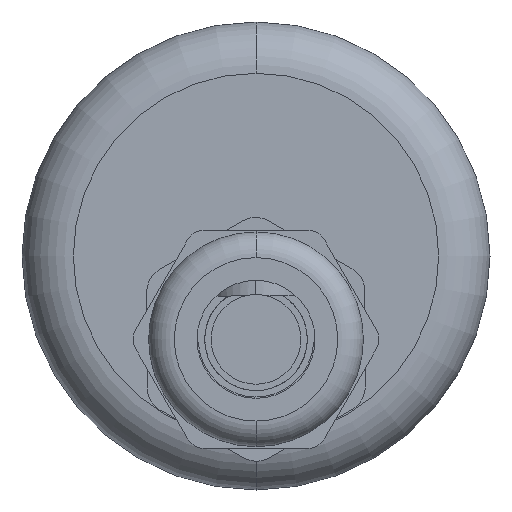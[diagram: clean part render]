
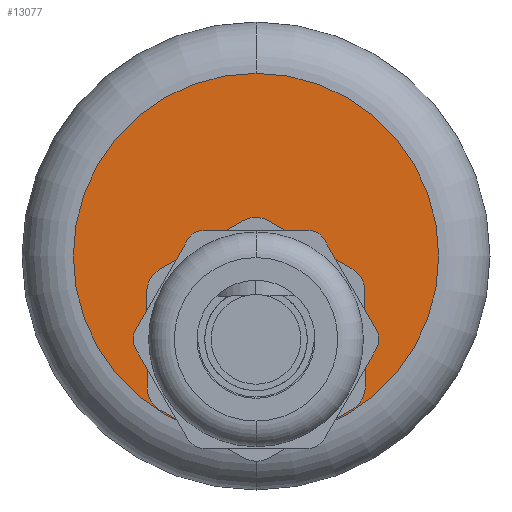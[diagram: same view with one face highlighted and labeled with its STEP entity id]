
A CAD part, front view. The second image highlights one B-rep face of the part: STEP entity #13077.
In plain terms, the highlighted planar face has unit normal (0, -1, 0).
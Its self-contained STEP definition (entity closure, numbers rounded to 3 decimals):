
#8672 = CARTESIAN_POINT ( 'NONE',  ( 0., 0., -12.55 ) ) ;
#8673 = DIRECTION ( 'NONE',  ( 0., 0., 1. ) ) ;
#8674 = DIRECTION ( 'NONE',  ( 0., 1., 0. ) ) ;
#8675 = CARTESIAN_POINT ( 'NONE',  ( 0., 0., -6.5 ) ) ;
#8676 = AXIS2_PLACEMENT_3D ( 'NONE', #8675, #8674, #8673 ) ;
#8677 = CIRCLE ( 'NONE', #8676, 6.05 ) ;
#8764 = CARTESIAN_POINT ( 'NONE',  ( 0., 0., -0.45 ) ) ;
#8823 = CARTESIAN_POINT ( 'NONE',  ( 0., 0., 14.25 ) ) ;
#9073 = CARTESIAN_POINT ( 'NONE',  ( 0., 0., -14.25 ) ) ;
#9125 = DIRECTION ( 'NONE',  ( 0., 0., 1. ) ) ;
#9126 = DIRECTION ( 'NONE',  ( 0., 1., 0. ) ) ;
#9127 = CARTESIAN_POINT ( 'NONE',  ( 0., 0., -6.5 ) ) ;
#9128 = AXIS2_PLACEMENT_3D ( 'NONE', #9127, #9126, #9125 ) ;
#9129 = CIRCLE ( 'NONE', #9128, 6.05 ) ;
#9130 = DIRECTION ( 'NONE',  ( 0., 0., 1. ) ) ;
#9131 = DIRECTION ( 'NONE',  ( 0., 1., 0. ) ) ;
#9132 = CARTESIAN_POINT ( 'NONE',  ( 0., 0., 0. ) ) ;
#9133 = AXIS2_PLACEMENT_3D ( 'NONE', #9132, #9131, #9130 ) ;
#9134 = CIRCLE ( 'NONE', #9133, 14.25 ) ;
#9179 = DIRECTION ( 'NONE',  ( 0., 0., -1. ) ) ;
#9180 = DIRECTION ( 'NONE',  ( 0., -1., 0. ) ) ;
#9181 = CARTESIAN_POINT ( 'NONE',  ( -14.25, 0., 0. ) ) ;
#9182 = AXIS2_PLACEMENT_3D ( 'NONE', #9181, #9180, #9179 ) ;
#9183 = PLANE ( 'NONE',  #9182 ) ;
#9184 = FACE_BOUND ( 'NONE', #13071, .T. ) ;
#9185 = FACE_OUTER_BOUND ( 'NONE', #13060, .T. ) ;
#9207 = DIRECTION ( 'NONE',  ( 0., 0., 1. ) ) ;
#9208 = DIRECTION ( 'NONE',  ( 0., 1., 0. ) ) ;
#9209 = AXIS2_PLACEMENT_3D ( 'NONE', #9215, #9208, #9207 ) ;
#9210 = CIRCLE ( 'NONE', #9209, 14.25 ) ;
#9215 = CARTESIAN_POINT ( 'NONE',  ( 0., 0., 0. ) ) ;
#12845 = EDGE_CURVE ( 'NONE', #12846, #12906, #8677, .T. ) ;
#12846 = VERTEX_POINT ( 'NONE', #8672 ) ;
#12906 = VERTEX_POINT ( 'NONE', #8764 ) ;
#12931 = VERTEX_POINT ( 'NONE', #8823 ) ;
#13022 = VERTEX_POINT ( 'NONE', #9073 ) ;
#13060 = EDGE_LOOP ( 'NONE', ( #13068, #13069 ) ) ;
#13068 = ORIENTED_EDGE ( 'NONE', *, *, #13109, .F. ) ;
#13069 = ORIENTED_EDGE ( 'NONE', *, *, #13070, .F. ) ;
#13070 = EDGE_CURVE ( 'NONE', #13022, #12931, #9134, .T. ) ;
#13071 = EDGE_LOOP ( 'NONE', ( #13072, #13073 ) ) ;
#13072 = ORIENTED_EDGE ( 'NONE', *, *, #12845, .T. ) ;
#13073 = ORIENTED_EDGE ( 'NONE', *, *, #13074, .T. ) ;
#13074 = EDGE_CURVE ( 'NONE', #12906, #12846, #9129, .T. ) ;
#13077 = ADVANCED_FACE ( 'NONE', ( #9185, #9184 ), #9183, .T. ) ;
#13109 = EDGE_CURVE ( 'NONE', #12931, #13022, #9210, .T. ) ;
